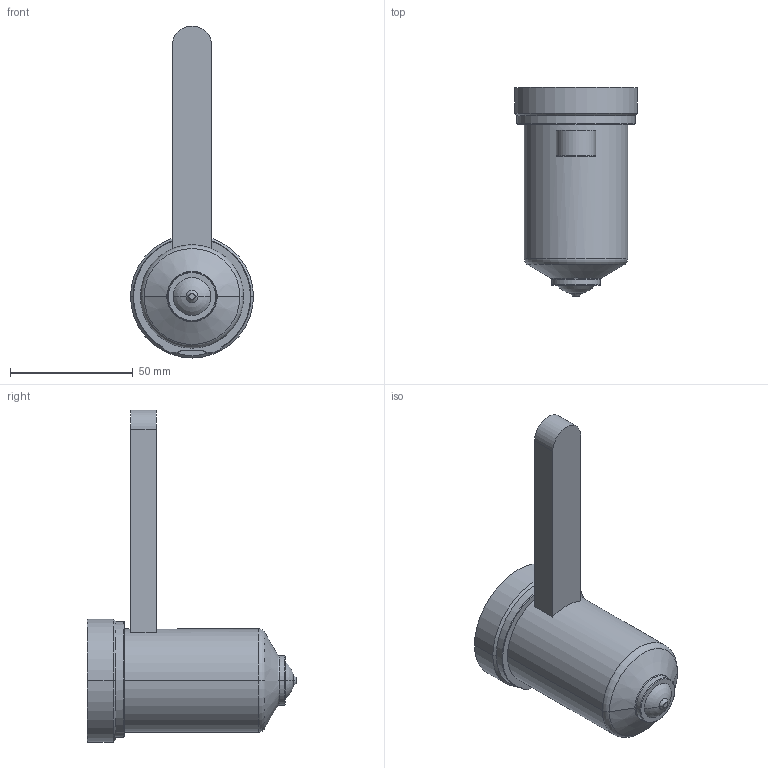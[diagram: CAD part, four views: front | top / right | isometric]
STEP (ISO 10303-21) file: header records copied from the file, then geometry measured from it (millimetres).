
FILE_DESCRIPTION((''),'2;1');
FILE_NAME('EO16_PG-BL_WR_070_COT','2024-02-19T11:18:31',('sundharh'),(''),'CREO PARAMETRIC BY PTC INC, 2023154','CREO PARAMETRIC BY PTC INC, 2023154','');
FILE_SCHEMA(('CONFIG_CONTROL_DESIGN'));
Length unit declared in the file: millimetre
Products named in the file (1): EO16_PG-BL_WR_070_COT
Bounding box: 50 x 85 x 135 mm (x, y, z)
Volume: 127657.1 mm3; surface area: 18550.8 mm2
Topology: 1 solids, 1 shells, 40 faces, 85 edges, 50 vertices
Faces by surface type: cylinder 13, plane 10, torus 9, cone 6, sphere 2
Entity records: 1201 total; most frequent: CARTESIAN_POINT 271, DIRECTION 209, ORIENTED_EDGE 170, AXIS2_PLACEMENT_3D 90, EDGE_CURVE 85, VERTEX_POINT 50, CIRCLE 50, EDGE_LOOP 43
